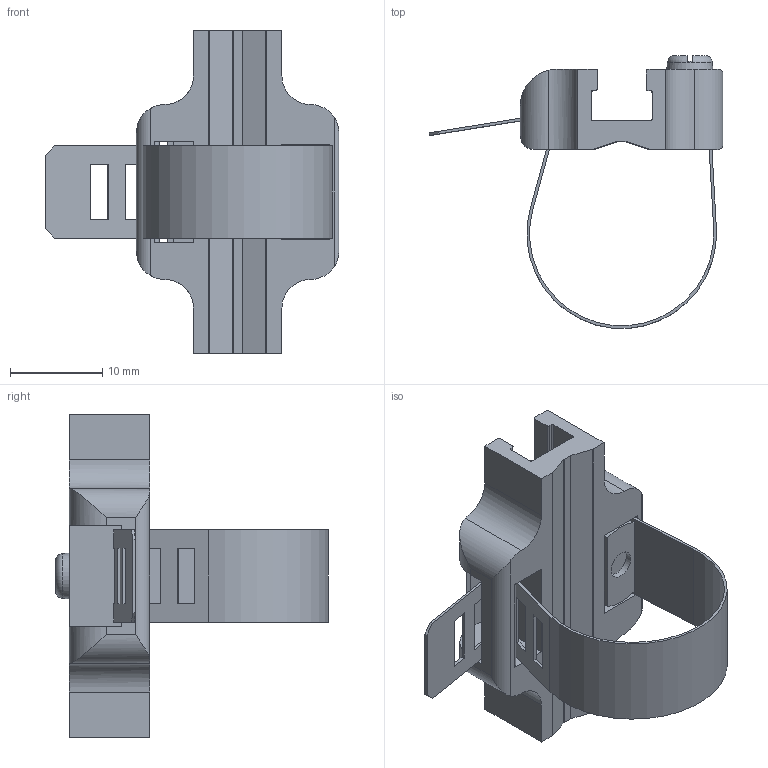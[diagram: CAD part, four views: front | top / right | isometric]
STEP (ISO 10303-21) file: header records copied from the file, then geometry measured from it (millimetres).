
FILE_DESCRIPTION( ( 'STEP AP214' ), ' ' );
FILE_NAME( 'p:/temp/worker_17/3336_884/app_43_02017120212584257545855192d056f_000000_00_00_000000/format_0/SICK BEF-KHZ-RT1-130-1-Bestell-Nr.2077684 (20).stp', '2017-12-02T11:58:42', ( '' ), ( '' ), ' ', 'PARTsolutions', ' ' );
FILE_SCHEMA( ( 'AUTOMOTIVE_DESIGN { 1 0 10303 214 1 1 1 1 }' ) );
Length unit declared in the file: millimetre
Products named in the file (1): _SICK BEF-KHZ-RT1-130-1-Bestell-Nr.2077684 (20)
Bounding box: 31.92 x 29.63 x 35 mm (x, y, z)
Volume: 3058.3 mm3; surface area: 4400.4 mm2
Topology: 1 solids, 1 shells, 134 faces, 381 edges, 252 vertices
Faces by surface type: plane 87, cylinder 45, cone 1, torus 1
Full cylindrical faces by diameter (mm): 3 x2, 3.2 x1
Entity records: 5512 total; most frequent: CARTESIAN_POINT 883, ORIENTED_EDGE 748, DIRECTION 720, EDGE_CURVE 374, LINE 270, VECTOR 270, VERTEX_POINT 250, AXIS2_PLACEMENT_3D 225
